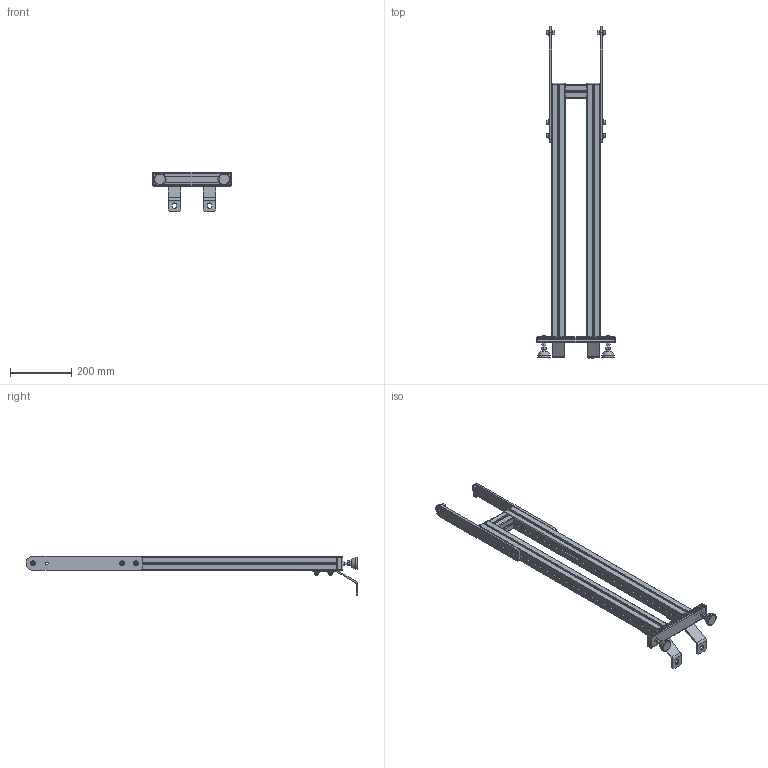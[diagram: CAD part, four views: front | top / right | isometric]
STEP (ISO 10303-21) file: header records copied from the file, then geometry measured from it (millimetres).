
FILE_DESCRIPTION (( 'STEP AP214' ), '1' );
FILE_NAME ('983-008-150.STEP', '2020-11-23T09:00:47', ( '' ), ( '' ), 'SwSTEP 2.0', 'SolidWorks 2020', '' );
FILE_SCHEMA (( 'AUTOMOTIVE_DESIGN' ));
Length unit declared in the file: millimetre
Products named in the file (16): 983-007; CHC M8X20 + RP8; 910-100; EMBOUT_915-010; EMBOUT_915-006; 905-021; 935-055; 982-017; 935-055SV; 983-008-150; CHASSIS JAMBAGE TB50-150_D‚faut[Brut d''usinage]; 935-016; CHC THE_910-052H; 910-002_910-235; 905-020; RONDELLE_910-111
Assembly tree (24 placements, depth 4):
  983-008-150
    CHASSIS JAMBAGE TB50-150_D‚faut[Brut d''usinage]
    935-055  x2
      935-055SV
      910-100
      910-002_910-235
    EMBOUT_915-010  x2
    EMBOUT_915-006  x2
    935-016  x2
    983-007  x2
      CHC M8X20 + RP8
        CHC THE_910-052H
        RONDELLE_910-111
      905-020
      905-021
      982-017
Bounding box: 256 x 1087 x 128 mm (x, y, z)
Volume: 2756491 mm3; surface area: 839618 mm2
Topology: 38 solids, 38 shells, 806 faces, 1949 edges, 1227 vertices
Faces by surface type: plane 524, cylinder 180, cone 72, sphere 16, torus 12, bspline 2
Full cylindrical faces by diameter (mm): 6 x6, 6.8 x14, 7.3 x4, 7.98 x6, 8 x14, 8.4 x6, 8.5 x8, 9 x4, 13 x6, 16 x6, 17 x4, 34 x2, 40 x2
Entity records: 12203 total; most frequent: CARTESIAN_POINT 2369, DIRECTION 1876, ORIENTED_EDGE 1808, EDGE_CURVE 904, LINE 698, VECTOR 698, VERTEX_POINT 610, AXIS2_PLACEMENT_3D 589
